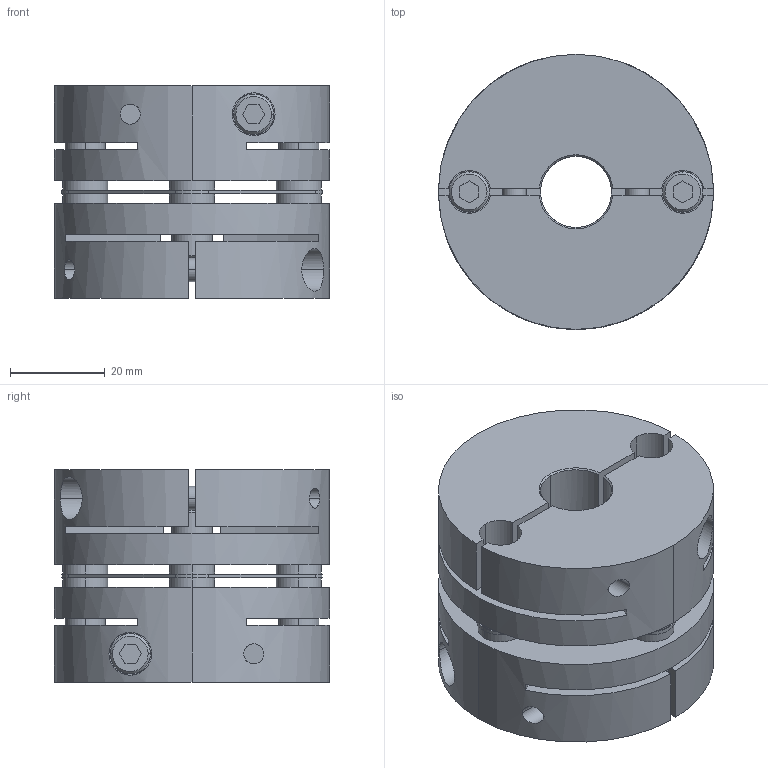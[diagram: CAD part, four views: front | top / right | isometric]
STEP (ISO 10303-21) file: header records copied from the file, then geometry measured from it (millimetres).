
FILE_DESCRIPTION((''),'2;1');
FILE_NAME('LAS-58C-15×16.stp','2011-08-09T15:18:46',(''),(''),'AutoCAD STEP 2000i','AutoCAD 2000i',', , ');
FILE_SCHEMA(('CONFIG_CONTROL_DESIGN'));
Length unit declared in the file: millimetre
Products named in the file (5): LAS-58C-12×12; 忣兜1; LA-5802-D12-1; LA-5802-D12; LAS58-ITA
Assembly tree (4 placements, depth 2):
  LAS-58C-12×12
    忣兜1
    LA-5802-D12-1
    LA-5802-D12
    LAS58-ITA
Bounding box: 58 x 58 x 44.8 mm (x, y, z)
Volume: 87950 mm3; surface area: 33788.5 mm2
Topology: 1 solids, 1 shells, 236 faces, 600 edges, 392 vertices
Faces by surface type: plane 112, cylinder 96, cone 28
Entity records: 7859 total; most frequent: CARTESIAN_POINT 1777, DIRECTION 1294, ORIENTED_EDGE 1200, EDGE_CURVE 600, AXIS2_PLACEMENT_3D 477, VERTEX_POINT 392, VECTOR 340, LINE 340
